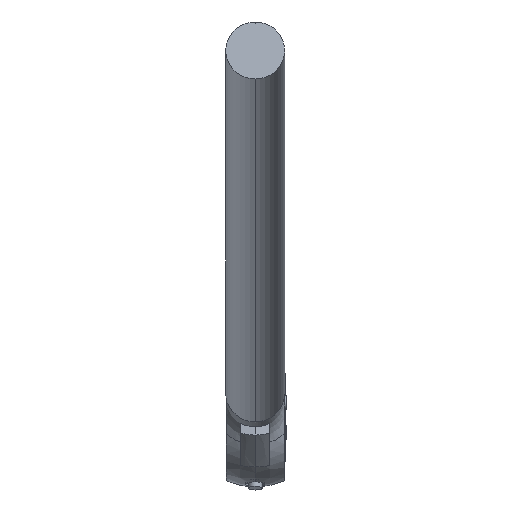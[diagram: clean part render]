
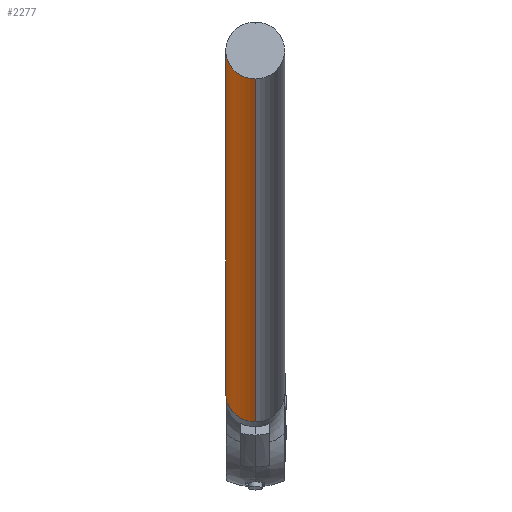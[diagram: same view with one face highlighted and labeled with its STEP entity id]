
A CAD part, left-side view. The second image highlights one B-rep face of the part: STEP entity #2277.
In plain terms, the highlighted cylindrical face has radius 25 mm (diameter 50 mm), a partial arc.
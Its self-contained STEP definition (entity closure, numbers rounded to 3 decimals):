
#46 = VERTEX_POINT ( 'NONE', #801 ) ;
#86 = CARTESIAN_POINT ( 'NONE',  ( -713.93, -226.5, 944.09 ) ) ;
#141 = ORIENTED_EDGE ( 'NONE', *, *, #660, .F. ) ;
#287 = LINE ( 'NONE', #2240, #1027 ) ;
#331 = DIRECTION ( 'NONE',  ( -0.968, 0., 0.252 ) ) ;
#479 = DIRECTION ( 'NONE',  ( 0.252, 0., 0.968 ) ) ;
#514 = EDGE_CURVE ( 'NONE', #993, #46, #610, .T. ) ;
#528 = VECTOR ( 'NONE', #2354, 1000. ) ;
#557 = DIRECTION ( 'NONE',  ( -0.968, 0., 0.252 ) ) ;
#569 = AXIS2_PLACEMENT_3D ( 'NONE', #737, #331, #1128 ) ;
#610 = CIRCLE ( 'NONE', #2394, 25. ) ;
#660 = EDGE_CURVE ( 'NONE', #1871, #1498, #1315, .T. ) ;
#680 = CARTESIAN_POINT ( 'NONE',  ( 395.006, -226.5, 629.22 ) ) ;
#737 = CARTESIAN_POINT ( 'NONE',  ( -720.235, -226.5, 919.898 ) ) ;
#758 = CARTESIAN_POINT ( 'NONE',  ( -778.972, -226.5, 935.208 ) ) ;
#801 = CARTESIAN_POINT ( 'NONE',  ( 388.7, -226.5, 605.028 ) ) ;
#833 = AXIS2_PLACEMENT_3D ( 'NONE', #758, #557, #1968 ) ;
#940 = CARTESIAN_POINT ( 'NONE',  ( 401.311, -226.5, 653.412 ) ) ;
#993 = VERTEX_POINT ( 'NONE', #940 ) ;
#1007 = EDGE_CURVE ( 'NONE', #46, #1498, #2090, .T. ) ;
#1027 = VECTOR ( 'NONE', #1096, 1000. ) ;
#1096 = DIRECTION ( 'NONE',  ( -0.968, 0., 0.252 ) ) ;
#1122 = FACE_OUTER_BOUND ( 'NONE', #2399, .T. ) ;
#1128 = DIRECTION ( 'NONE',  ( -0.252, 0., -0.968 ) ) ;
#1193 = ORIENTED_EDGE ( 'NONE', *, *, #1272, .F. ) ;
#1272 = EDGE_CURVE ( 'NONE', #993, #1871, #287, .T. ) ;
#1315 = CIRCLE ( 'NONE', #569, 25. ) ;
#1346 = CARTESIAN_POINT ( 'NONE',  ( -726.541, -226.5, 895.707 ) ) ;
#1461 = DIRECTION ( 'NONE',  ( -0.968, 0., 0.252 ) ) ;
#1498 = VERTEX_POINT ( 'NONE', #1346 ) ;
#1672 = ORIENTED_EDGE ( 'NONE', *, *, #514, .T. ) ;
#1871 = VERTEX_POINT ( 'NONE', #86 ) ;
#1905 = CYLINDRICAL_SURFACE ( 'NONE', #833, 25. ) ;
#1935 = CARTESIAN_POINT ( 'NONE',  ( -785.278, -226.5, 911.016 ) ) ;
#1968 = DIRECTION ( 'NONE',  ( 0.252, 0., 0.968 ) ) ;
#2090 = LINE ( 'NONE', #1935, #528 ) ;
#2240 = CARTESIAN_POINT ( 'NONE',  ( -772.667, -226.5, 959.399 ) ) ;
#2277 = ADVANCED_FACE ( 'NONE', ( #1122 ), #1905, .T. ) ;
#2354 = DIRECTION ( 'NONE',  ( -0.968, 0., 0.252 ) ) ;
#2394 = AXIS2_PLACEMENT_3D ( 'NONE', #680, #1461, #479 ) ;
#2399 = EDGE_LOOP ( 'NONE', ( #1672, #2526, #141, #1193 ) ) ;
#2526 = ORIENTED_EDGE ( 'NONE', *, *, #1007, .T. ) ;
